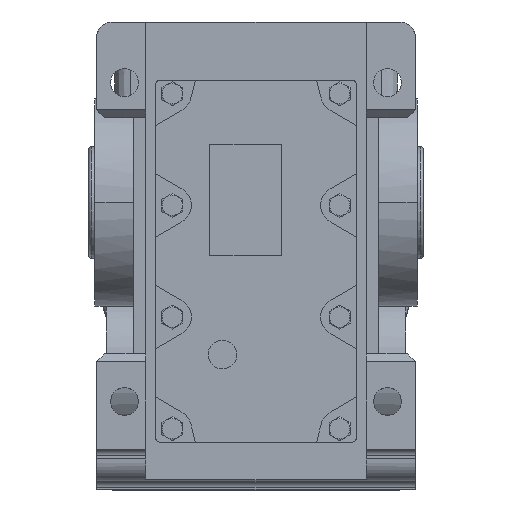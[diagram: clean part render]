
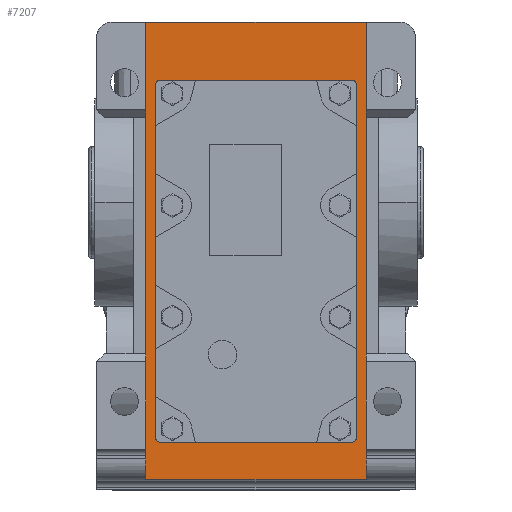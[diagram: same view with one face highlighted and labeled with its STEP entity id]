
A CAD part, top view. The second image highlights one B-rep face of the part: STEP entity #7207.
In plain terms, the highlighted planar face has unit normal (0, 0, 1).
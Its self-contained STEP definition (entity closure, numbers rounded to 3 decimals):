
#1565 = CARTESIAN_POINT ( 'NONE',  ( 63., -147.5, 96.5 ) ) ;
#1571 = CARTESIAN_POINT ( 'NONE',  ( 60., -150.5, 96.5 ) ) ;
#1645 = CARTESIAN_POINT ( 'NONE',  ( -60., 76.5, 96.5 ) ) ;
#1673 = CARTESIAN_POINT ( 'NONE',  ( -60., -150.5, 96.5 ) ) ;
#1679 = CARTESIAN_POINT ( 'NONE',  ( -63., 73.5, 96.5 ) ) ;
#1683 = CARTESIAN_POINT ( 'NONE',  ( -69., -173.874, 96.5 ) ) ;
#1685 = CARTESIAN_POINT ( 'NONE',  ( -63., -147.5, 96.5 ) ) ;
#3590 = CARTESIAN_POINT ( 'NONE',  ( 63., 73.5, 96.5 ) ) ;
#3617 = CARTESIAN_POINT ( 'NONE',  ( 60., 76.5, 96.5 ) ) ;
#4222 = EDGE_LOOP ( 'NONE', ( #13553, #13554, #13555, #13556, #13557, #13558, #13559, #13560 ) ) ;
#4237 = EDGE_LOOP ( 'NONE', ( #13561, #13562, #13563, #13564 ) ) ;
#4308 = VERTEX_POINT ( 'NONE', #1645 ) ;
#4312 = VERTEX_POINT ( 'NONE', #1679 ) ;
#4326 = VERTEX_POINT ( 'NONE', #1673 ) ;
#4338 = VERTEX_POINT ( 'NONE', #1565 ) ;
#4340 = VERTEX_POINT ( 'NONE', #1571 ) ;
#4393 = VERTEX_POINT ( 'NONE', #1685 ) ;
#4394 = VERTEX_POINT ( 'NONE', #1683 ) ;
#4425 = VERTEX_POINT ( 'NONE', #41381 ) ;
#4611 = VERTEX_POINT ( 'NONE', #41535 ) ;
#5750 = CARTESIAN_POINT ( 'NONE',  ( 69., 113., 96.5 ) ) ;
#7207 = ADVANCED_FACE ( 'NONE', ( #39517, #39521 ), #42154, .T. ) ;
#7702 = CARTESIAN_POINT ( 'NONE',  ( -60., 76.5, 96.5 ) ) ;
#7704 = CARTESIAN_POINT ( 'NONE',  ( 60., 73.5, 96.5 ) ) ;
#7705 = DIRECTION ( 'NONE',  ( 0., 0., -1. ) ) ;
#7706 = DIRECTION ( 'NONE',  ( 1., 0., 0. ) ) ;
#7708 = DIRECTION ( 'NONE',  ( 1., 0., 0. ) ) ;
#7712 = CARTESIAN_POINT ( 'NONE',  ( -63., -147.5, 96.5 ) ) ;
#7713 = CARTESIAN_POINT ( 'NONE',  ( -60., 73.5, 96.5 ) ) ;
#7714 = DIRECTION ( 'NONE',  ( 0., 0., -1. ) ) ;
#7715 = DIRECTION ( 'NONE',  ( 1., 0., 0. ) ) ;
#7717 = DIRECTION ( 'NONE',  ( 0., 1., 0. ) ) ;
#7721 = CARTESIAN_POINT ( 'NONE',  ( 60., -150.5, 96.5 ) ) ;
#7722 = CARTESIAN_POINT ( 'NONE',  ( -60., -147.5, 96.5 ) ) ;
#7723 = DIRECTION ( 'NONE',  ( 0., 0., -1. ) ) ;
#7724 = DIRECTION ( 'NONE',  ( 1., 0., 0. ) ) ;
#7726 = DIRECTION ( 'NONE',  ( -1., 0., 0. ) ) ;
#7731 = CARTESIAN_POINT ( 'NONE',  ( 63., 73.5, 96.5 ) ) ;
#7732 = CARTESIAN_POINT ( 'NONE',  ( 60., -147.5, 96.5 ) ) ;
#7733 = DIRECTION ( 'NONE',  ( 0., 0., -1. ) ) ;
#7734 = DIRECTION ( 'NONE',  ( 1., 0., 0. ) ) ;
#7736 = DIRECTION ( 'NONE',  ( 0., -1., 0. ) ) ;
#7740 = CARTESIAN_POINT ( 'NONE',  ( -69., -173.874, 96.5 ) ) ;
#7742 = DIRECTION ( 'NONE',  ( 1., 0., 0. ) ) ;
#8823 = LINE ( 'NONE', #10699, #8826 ) ;
#8825 = LINE ( 'NONE', #10701, #8828 ) ;
#8826 = VECTOR ( 'NONE', #10700, 1000. ) ;
#8827 = LINE ( 'NONE', #10703, #8830 ) ;
#8828 = VECTOR ( 'NONE', #10702, 1000. ) ;
#8830 = VECTOR ( 'NONE', #10704, 1000. ) ;
#9844 = VERTEX_POINT ( 'NONE', #5750 ) ;
#10699 = CARTESIAN_POINT ( 'NONE',  ( 69., -173.874, 96.5 ) ) ;
#10700 = DIRECTION ( 'NONE',  ( 0., 1., 0. ) ) ;
#10701 = CARTESIAN_POINT ( 'NONE',  ( -69., 113., 96.5 ) ) ;
#10702 = DIRECTION ( 'NONE',  ( 0., -1., 0. ) ) ;
#10703 = CARTESIAN_POINT ( 'NONE',  ( 69., 113., 96.5 ) ) ;
#10704 = DIRECTION ( 'NONE',  ( -1., 0., 0. ) ) ;
#12553 = EDGE_CURVE ( 'NONE', #39309, #39258, #40466, .T. ) ;
#12555 = EDGE_CURVE ( 'NONE', #4308, #39309, #40472, .T. ) ;
#12557 = EDGE_CURVE ( 'NONE', #4312, #4308, #40473, .T. ) ;
#12559 = EDGE_CURVE ( 'NONE', #4393, #4312, #40477, .T. ) ;
#12561 = EDGE_CURVE ( 'NONE', #4326, #4393, #40480, .T. ) ;
#12563 = EDGE_CURVE ( 'NONE', #4340, #4326, #40484, .T. ) ;
#12565 = EDGE_CURVE ( 'NONE', #4338, #4340, #40487, .T. ) ;
#12567 = EDGE_CURVE ( 'NONE', #39258, #4338, #40491, .T. ) ;
#12570 = EDGE_CURVE ( 'NONE', #4394, #4425, #40500, .T. ) ;
#12865 = EDGE_CURVE ( 'NONE', #4425, #9844, #8823, .T. ) ;
#12866 = EDGE_CURVE ( 'NONE', #4611, #4394, #8825, .T. ) ;
#12867 = EDGE_CURVE ( 'NONE', #9844, #4611, #8827, .T. ) ;
#13553 = ORIENTED_EDGE ( 'NONE', *, *, #12567, .T. ) ;
#13554 = ORIENTED_EDGE ( 'NONE', *, *, #12565, .T. ) ;
#13555 = ORIENTED_EDGE ( 'NONE', *, *, #12563, .T. ) ;
#13556 = ORIENTED_EDGE ( 'NONE', *, *, #12561, .T. ) ;
#13557 = ORIENTED_EDGE ( 'NONE', *, *, #12559, .T. ) ;
#13558 = ORIENTED_EDGE ( 'NONE', *, *, #12557, .T. ) ;
#13559 = ORIENTED_EDGE ( 'NONE', *, *, #12555, .T. ) ;
#13560 = ORIENTED_EDGE ( 'NONE', *, *, #12553, .T. ) ;
#13561 = ORIENTED_EDGE ( 'NONE', *, *, #12866, .T. ) ;
#13562 = ORIENTED_EDGE ( 'NONE', *, *, #12570, .T. ) ;
#13563 = ORIENTED_EDGE ( 'NONE', *, *, #12865, .T. ) ;
#13564 = ORIENTED_EDGE ( 'NONE', *, *, #12867, .T. ) ;
#36308 = AXIS2_PLACEMENT_3D ( 'NONE', #42150, #42159, #42160 ) ;
#36862 = AXIS2_PLACEMENT_3D ( 'NONE', #7704, #7705, #7706 ) ;
#36863 = AXIS2_PLACEMENT_3D ( 'NONE', #7713, #7714, #7715 ) ;
#36866 = AXIS2_PLACEMENT_3D ( 'NONE', #7722, #7723, #7724 ) ;
#36868 = AXIS2_PLACEMENT_3D ( 'NONE', #7732, #7733, #7734 ) ;
#39258 = VERTEX_POINT ( 'NONE', #3590 ) ;
#39309 = VERTEX_POINT ( 'NONE', #3617 ) ;
#39517 = FACE_BOUND ( 'NONE', #4222, .T. ) ;
#39521 = FACE_OUTER_BOUND ( 'NONE', #4237, .T. ) ;
#40466 = CIRCLE ( 'NONE', #36862, 3. ) ;
#40472 = LINE ( 'NONE', #7702, #40476 ) ;
#40473 = CIRCLE ( 'NONE', #36863, 3. ) ;
#40476 = VECTOR ( 'NONE', #7708, 1000. ) ;
#40477 = LINE ( 'NONE', #7712, #40483 ) ;
#40480 = CIRCLE ( 'NONE', #36866, 3. ) ;
#40483 = VECTOR ( 'NONE', #7717, 1000. ) ;
#40484 = LINE ( 'NONE', #7721, #40490 ) ;
#40487 = CIRCLE ( 'NONE', #36868, 3. ) ;
#40490 = VECTOR ( 'NONE', #7726, 1000. ) ;
#40491 = LINE ( 'NONE', #7731, #40497 ) ;
#40497 = VECTOR ( 'NONE', #7736, 1000. ) ;
#40500 = LINE ( 'NONE', #7740, #40503 ) ;
#40503 = VECTOR ( 'NONE', #7742, 1000. ) ;
#41381 = CARTESIAN_POINT ( 'NONE',  ( 69., -173.874, 96.5 ) ) ;
#41535 = CARTESIAN_POINT ( 'NONE',  ( -69., 113., 96.5 ) ) ;
#42150 = CARTESIAN_POINT ( 'NONE',  ( -69., -173.874, 96.5 ) ) ;
#42154 = PLANE ( 'NONE',  #36308 ) ;
#42159 = DIRECTION ( 'NONE',  ( 0., 0., 1. ) ) ;
#42160 = DIRECTION ( 'NONE',  ( 1., 0., 0. ) ) ;
